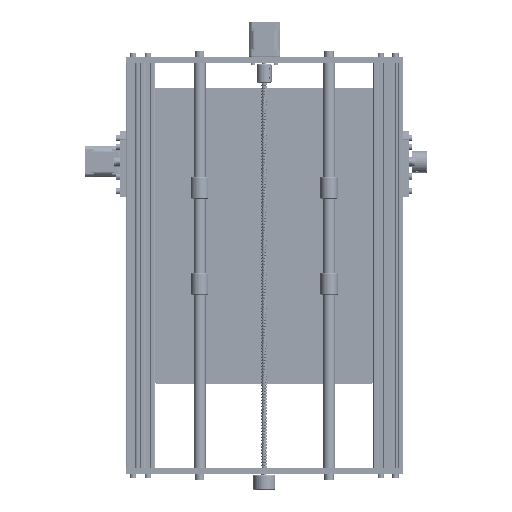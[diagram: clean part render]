
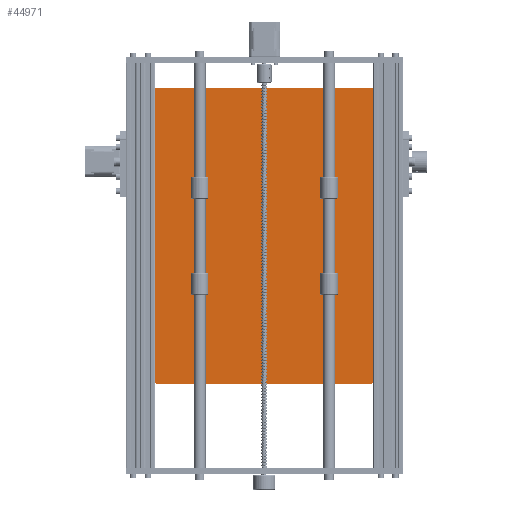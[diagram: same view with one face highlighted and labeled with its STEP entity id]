
A CAD part, front view. The second image highlights one B-rep face of the part: STEP entity #44971.
In plain terms, the highlighted planar face has unit normal (0, -1, 0).
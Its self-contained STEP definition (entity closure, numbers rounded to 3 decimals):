
#4404=PLANE('',#48665);
#6128=FACE_OUTER_BOUND('',#8645,.T.);
#8645=EDGE_LOOP('',(#36705,#36706,#36707,#36708,#36709,#36710,#36711,#36712));
#11895=LINE('',#125788,#14925);
#11898=LINE('',#125797,#14928);
#11901=LINE('',#125805,#14931);
#11903=LINE('',#125811,#14933);
#14925=VECTOR('',#55917,10.);
#14928=VECTOR('',#55928,10.);
#14931=VECTOR('',#55937,10.);
#14933=VECTOR('',#55945,10.);
#16227=CIRCLE('',#48653,5.);
#16228=CIRCLE('',#48657,5.);
#16229=CIRCLE('',#48660,5.);
#16230=CIRCLE('',#48663,5.);
#19907=VERTEX_POINT('',#125780);
#19908=VERTEX_POINT('',#125782);
#19909=VERTEX_POINT('',#125786);
#19910=VERTEX_POINT('',#125791);
#19911=VERTEX_POINT('',#125795);
#19912=VERTEX_POINT('',#125799);
#19913=VERTEX_POINT('',#125803);
#19914=VERTEX_POINT('',#125807);
#25818=EDGE_CURVE('',#19907,#19908,#16227,.T.);
#25821=EDGE_CURVE('',#19909,#19907,#11895,.T.);
#25823=EDGE_CURVE('',#19910,#19909,#16228,.T.);
#25825=EDGE_CURVE('',#19911,#19910,#11898,.T.);
#25827=EDGE_CURVE('',#19912,#19911,#16229,.T.);
#25829=EDGE_CURVE('',#19913,#19912,#11901,.T.);
#25831=EDGE_CURVE('',#19914,#19913,#16230,.T.);
#25832=EDGE_CURVE('',#19908,#19914,#11903,.T.);
#36705=ORIENTED_EDGE('',*,*,#25818,.F.);
#36706=ORIENTED_EDGE('',*,*,#25821,.F.);
#36707=ORIENTED_EDGE('',*,*,#25823,.F.);
#36708=ORIENTED_EDGE('',*,*,#25825,.F.);
#36709=ORIENTED_EDGE('',*,*,#25827,.F.);
#36710=ORIENTED_EDGE('',*,*,#25829,.F.);
#36711=ORIENTED_EDGE('',*,*,#25831,.F.);
#36712=ORIENTED_EDGE('',*,*,#25832,.F.);
#44971=ADVANCED_FACE('',(#6128),#4404,.F.);
#48653=AXIS2_PLACEMENT_3D('',#125783,#55911,#55912);
#48657=AXIS2_PLACEMENT_3D('',#125793,#55923,#55924);
#48660=AXIS2_PLACEMENT_3D('',#125801,#55932,#55933);
#48663=AXIS2_PLACEMENT_3D('',#125809,#55941,#55942);
#48665=AXIS2_PLACEMENT_3D('',#125812,#55946,#55947);
#55911=DIRECTION('center_axis',(0.,1.,0.));
#55912=DIRECTION('ref_axis',(-0.707,0.,-0.707));
#55917=DIRECTION('',(-1.,0.,0.));
#55923=DIRECTION('center_axis',(0.,1.,0.));
#55924=DIRECTION('ref_axis',(0.707,0.,-0.707));
#55928=DIRECTION('',(0.,0.,-1.));
#55932=DIRECTION('center_axis',(0.,1.,0.));
#55933=DIRECTION('ref_axis',(0.707,0.,0.707));
#55937=DIRECTION('',(1.,0.,0.));
#55941=DIRECTION('center_axis',(0.,1.,0.));
#55942=DIRECTION('ref_axis',(-0.707,0.,0.707));
#55945=DIRECTION('',(0.,0.,1.));
#55946=DIRECTION('center_axis',(0.,1.,0.));
#55947=DIRECTION('ref_axis',(0.,0.,1.));
#125780=CARTESIAN_POINT('',(-195.,0.,-150.));
#125782=CARTESIAN_POINT('',(-200.,0.,-145.));
#125783=CARTESIAN_POINT('Origin',(-195.,0.,-145.));
#125786=CARTESIAN_POINT('',(195.,0.,-150.));
#125788=CARTESIAN_POINT('',(200.,0.,-150.));
#125791=CARTESIAN_POINT('',(200.,0.,-145.));
#125793=CARTESIAN_POINT('Origin',(195.,0.,-145.));
#125795=CARTESIAN_POINT('',(200.,0.,145.));
#125797=CARTESIAN_POINT('',(200.,0.,150.));
#125799=CARTESIAN_POINT('',(195.,0.,150.));
#125801=CARTESIAN_POINT('Origin',(195.,0.,145.));
#125803=CARTESIAN_POINT('',(-195.,0.,150.));
#125805=CARTESIAN_POINT('',(-200.,0.,150.));
#125807=CARTESIAN_POINT('',(-200.,0.,145.));
#125809=CARTESIAN_POINT('Origin',(-195.,0.,145.));
#125811=CARTESIAN_POINT('',(-200.,0.,-150.));
#125812=CARTESIAN_POINT('Origin',(0.,0.,0.));
